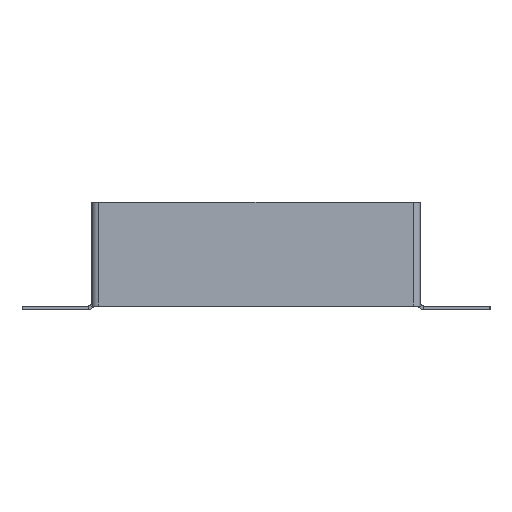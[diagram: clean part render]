
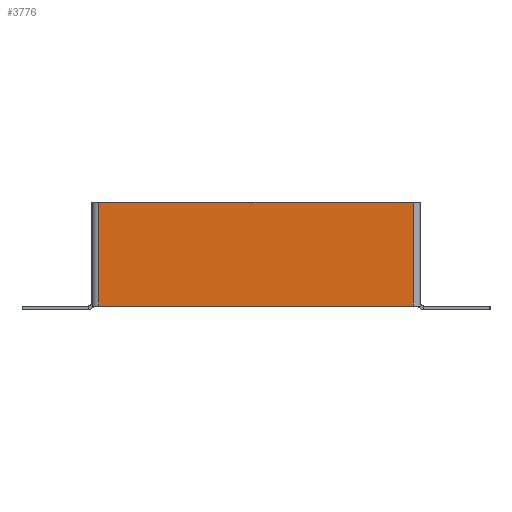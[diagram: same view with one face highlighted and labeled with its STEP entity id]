
A CAD part, front view. The second image highlights one B-rep face of the part: STEP entity #3776.
In plain terms, the highlighted planar face has unit normal (0, -1, 0).
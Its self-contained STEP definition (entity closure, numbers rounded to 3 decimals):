
#137 = EDGE_LOOP ( 'NONE', ( #6146, #342, #4255, #2838 ) ) ;
#287 = CARTESIAN_POINT ( 'NONE',  ( -88., -2., 0. ) ) ;
#329 = CARTESIAN_POINT ( 'NONE',  ( -88., -2., -58. ) ) ;
#342 = ORIENTED_EDGE ( 'NONE', *, *, #2177, .F. ) ;
#630 = VERTEX_POINT ( 'NONE', #3841 ) ;
#664 = EDGE_CURVE ( 'NONE', #9148, #5196, #6871, .T. ) ;
#806 = VERTEX_POINT ( 'NONE', #6848 ) ;
#1056 = VECTOR ( 'NONE', #5690, 1000. ) ;
#1178 = VECTOR ( 'NONE', #1273, 1000. ) ;
#1191 = VECTOR ( 'NONE', #2411, 1000. ) ;
#1273 = DIRECTION ( 'NONE',  ( 0., 0., 1. ) ) ;
#2014 = DIRECTION ( 'NONE',  ( 0., 0., 1. ) ) ;
#2109 = CARTESIAN_POINT ( 'NONE',  ( -90., -2., 0. ) ) ;
#2177 = EDGE_CURVE ( 'NONE', #806, #5196, #6218, .T. ) ;
#2411 = DIRECTION ( 'NONE',  ( 0., 0., -1. ) ) ;
#2753 = LINE ( 'NONE', #4805, #1178 ) ;
#2838 = ORIENTED_EDGE ( 'NONE', *, *, #9163, .F. ) ;
#3272 = AXIS2_PLACEMENT_3D ( 'NONE', #5569, #9109, #2014 ) ;
#3776 = ADVANCED_FACE ( 'NONE', ( #8359 ), #6987, .F. ) ;
#3811 = CARTESIAN_POINT ( 'NONE',  ( -90., -2., -58. ) ) ;
#3841 = CARTESIAN_POINT ( 'NONE',  ( 88., -2., 0. ) ) ;
#4130 = CARTESIAN_POINT ( 'NONE',  ( -88., -2., 0. ) ) ;
#4255 = ORIENTED_EDGE ( 'NONE', *, *, #7580, .T. ) ;
#4337 = VECTOR ( 'NONE', #4631, 1000. ) ;
#4631 = DIRECTION ( 'NONE',  ( -1., 0., 0. ) ) ;
#4805 = CARTESIAN_POINT ( 'NONE',  ( 88., -2., -58. ) ) ;
#4856 = LINE ( 'NONE', #2109, #1056 ) ;
#5196 = VERTEX_POINT ( 'NONE', #329 ) ;
#5569 = CARTESIAN_POINT ( 'NONE',  ( 0., -2., 0. ) ) ;
#5690 = DIRECTION ( 'NONE',  ( 1., 0., 0. ) ) ;
#6146 = ORIENTED_EDGE ( 'NONE', *, *, #664, .T. ) ;
#6218 = LINE ( 'NONE', #3811, #4337 ) ;
#6848 = CARTESIAN_POINT ( 'NONE',  ( 88., -2., -58. ) ) ;
#6871 = LINE ( 'NONE', #287, #1191 ) ;
#6987 = PLANE ( 'NONE',  #3272 ) ;
#7580 = EDGE_CURVE ( 'NONE', #806, #630, #2753, .T. ) ;
#8359 = FACE_OUTER_BOUND ( 'NONE', #137, .T. ) ;
#9109 = DIRECTION ( 'NONE',  ( 0., 1., 0. ) ) ;
#9148 = VERTEX_POINT ( 'NONE', #4130 ) ;
#9163 = EDGE_CURVE ( 'NONE', #9148, #630, #4856, .T. ) ;
